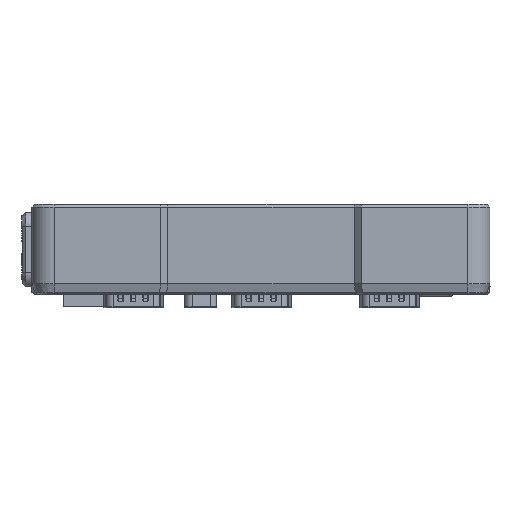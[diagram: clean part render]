
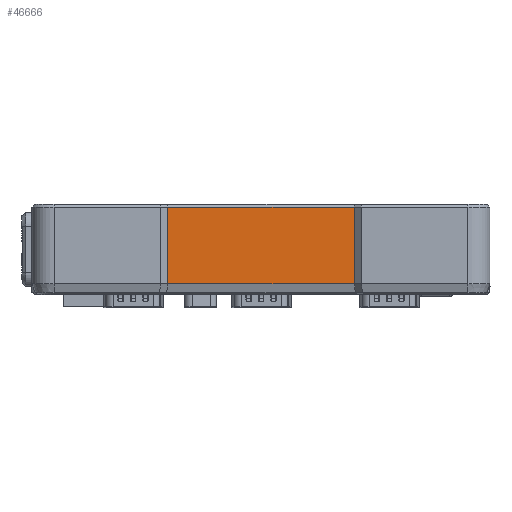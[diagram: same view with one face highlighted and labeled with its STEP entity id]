
A CAD part, left-side view. The second image highlights one B-rep face of the part: STEP entity #46666.
In plain terms, the highlighted planar face has unit normal (-1, 0, 0).
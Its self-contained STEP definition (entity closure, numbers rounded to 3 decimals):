
#6355=FACE_OUTER_BOUND('',#9295,.T.);
#9295=EDGE_LOOP('',(#32539,#32540,#32541,#32542));
#12659=LINE('',#68277,#16083);
#12764=LINE('',#68507,#16188);
#12765=LINE('',#68510,#16189);
#12766=LINE('',#68511,#16190);
#16083=VECTOR('',#55438,10.);
#16188=VECTOR('',#55673,10.);
#16189=VECTOR('',#55676,10.);
#16190=VECTOR('',#55677,10.);
#19492=VERTEX_POINT('',#68272);
#19493=VERTEX_POINT('',#68276);
#19553=VERTEX_POINT('',#68505);
#19554=VERTEX_POINT('',#68509);
#24370=EDGE_CURVE('',#19492,#19493,#12659,.T.);
#24485=EDGE_CURVE('',#19493,#19553,#12764,.T.);
#24486=EDGE_CURVE('',#19553,#19554,#12765,.T.);
#24487=EDGE_CURVE('',#19492,#19554,#12766,.T.);
#32539=ORIENTED_EDGE('',*,*,#24486,.F.);
#32540=ORIENTED_EDGE('',*,*,#24485,.F.);
#32541=ORIENTED_EDGE('',*,*,#24370,.F.);
#32542=ORIENTED_EDGE('',*,*,#24487,.T.);
#45506=PLANE('',#49858);
#46666=ADVANCED_FACE('',(#6355),#45506,.T.);
#49858=AXIS2_PLACEMENT_3D('',#68508,#55674,#55675);
#55438=DIRECTION('',(0.,-1.,0.));
#55673=DIRECTION('',(0.,0.,-1.));
#55674=DIRECTION('center_axis',(-1.,0.,0.));
#55675=DIRECTION('ref_axis',(0.,1.,0.));
#55676=DIRECTION('',(0.,1.,0.));
#55677=DIRECTION('',(0.,0.,-1.));
#68272=CARTESIAN_POINT('',(-4.025,42.531,27.691));
#68276=CARTESIAN_POINT('',(-4.025,-9.869,27.691));
#68277=CARTESIAN_POINT('',(-4.025,3.231,27.691));
#68505=CARTESIAN_POINT('',(-4.025,-9.869,6.141));
#68507=CARTESIAN_POINT('',(-4.025,-9.869,28.491));
#68508=CARTESIAN_POINT('Origin',(-4.025,-9.869,28.491));
#68509=CARTESIAN_POINT('',(-4.025,42.531,6.141));
#68510=CARTESIAN_POINT('',(-4.025,3.231,6.141));
#68511=CARTESIAN_POINT('',(-4.025,42.531,28.491));
